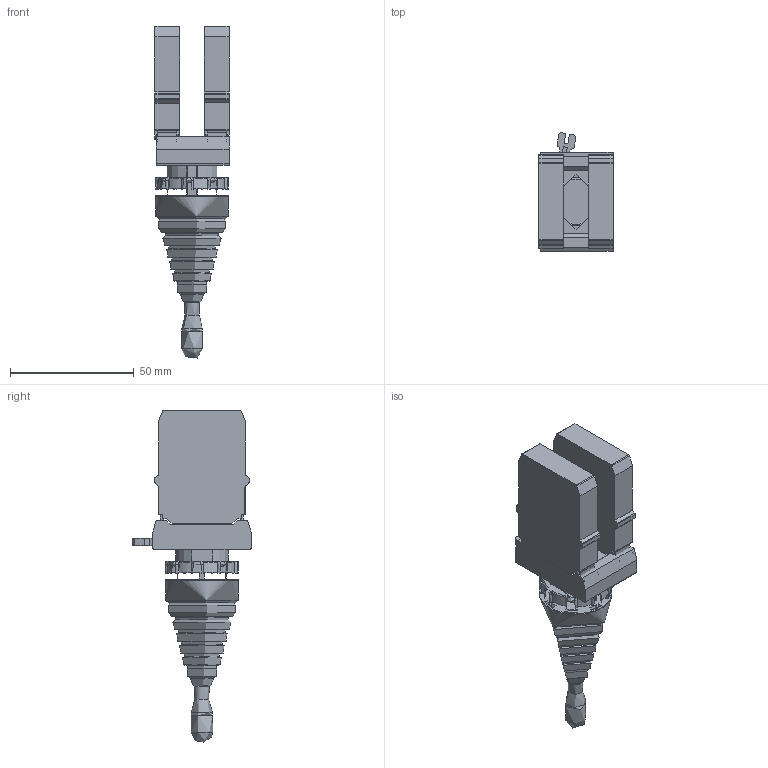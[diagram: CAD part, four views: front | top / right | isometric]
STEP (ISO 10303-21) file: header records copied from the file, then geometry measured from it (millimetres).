
FILE_DESCRIPTION((''),'2; 1');
FILE_NAME('','2026-03-26T16:39:41',(''),(''),'CST STEP Exporter V1.0','Unknown','');
FILE_SCHEMA(('CONFIG_CONTROL_DESIGN'));
Length unit declared in the file: metre
Assembly tree (6 placements, depth 2):
  (unnamed)
    (unnamed)
    (unnamed)
    (unnamed)
    (unnamed)
    (unnamed)
    (unnamed)
Bounding box: 30 x 48.02 x 134.35 mm (x, y, z)
Topology: 0 solids, 84 shells, 277 faces, 956 edges, 737 vertices
Faces by surface type: plane 131, cylinder 54, torus 32, bspline 32, cone 19, extrusion 8, sphere 1
Full cylindrical faces by diameter (mm): 2 x15, 6 x1, 9 x1, 22.4 x1, 27.5 x1, 29.5 x2
Entity records: 16773 total; most frequent: CARTESIAN_POINT 6081, ORIENTED_EDGE 1560, DIRECTION 1535, EDGE_CURVE 917, VERTEX_POINT 676, AXIS2_PLACEMENT_3D 513, VECTOR 509, LINE 501
